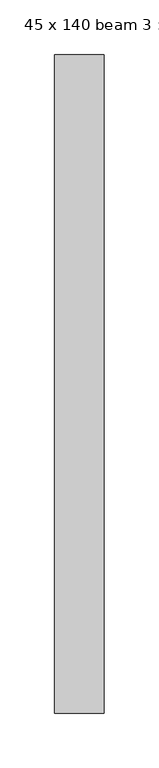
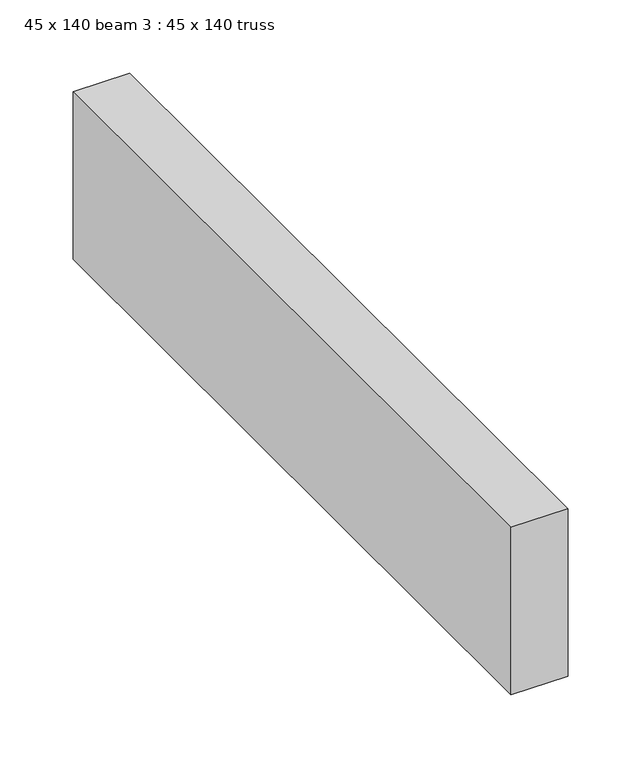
"""IFC4 building model written with IfcOpenShell, lengths in millimetres: proxy geometry, 45 x 140 beam 3 : 45 x 140 truss."""

from ifc_helpers import new_model, si_unit, frame, origin, place, context, project, spatial, polyline, outline, extrude, source, transform, mapped, element, save


def proxy_45_x_140_beam_3_45_x_140_truss_e8b19fd3(model_context):
    return source(origin(), model_context, "Body", "SweptSolid", [
        extrude(outline(polyline([(-27409.3180747, -22041.8867613), (-27364.3180747, -22041.8867613), (-27364.3180747, -22641.8867613), (-27409.3180747, -22641.8867613), (-27409.3180747, -22041.8867613)])), frame((0.0, 0.0, 3644.2452806), z_axis=(0.0, 0.0, 1.0), x_axis=(1.0, 0.0, 0.0)), (0.0, 0.0, 1.0), 140.0),
    ])


if __name__ == "__main__":
    model = new_model("IFC4")
    model_context = context("Model", 3, world=origin())
    ifc_project = project(units=[si_unit("LENGTHUNIT", "METRE", prefix="MILLI")], contexts=[model_context])
    site = spatial("IfcSite", under=ifc_project)
    building = spatial("IfcBuilding", under=site)
    placement = place(None, origin())
    proxy_45_x_140_beam_3_45_x_140_truss_shape = proxy_45_x_140_beam_3_45_x_140_truss_e8b19fd3(model_context)
    element("IfcBuildingElementProxy", 1, Name="45 x 140 beam 3 : 45 x 140 truss", ObjectType="45 x 140 beam 3 : 45 x 140 truss", at=placement, inside=building, context=model_context, shape_type="MappedRepresentation", body=[
        mapped(proxy_45_x_140_beam_3_45_x_140_truss_shape, transform((0.0, 0.0, 0.0), x_axis=(1.0, 0.0, 0.0), y_axis=(0.0, 1.0, 0.0), z_axis=(0.0, 0.0, 1.0))),
    ])
    save(model, "model.ifc")
